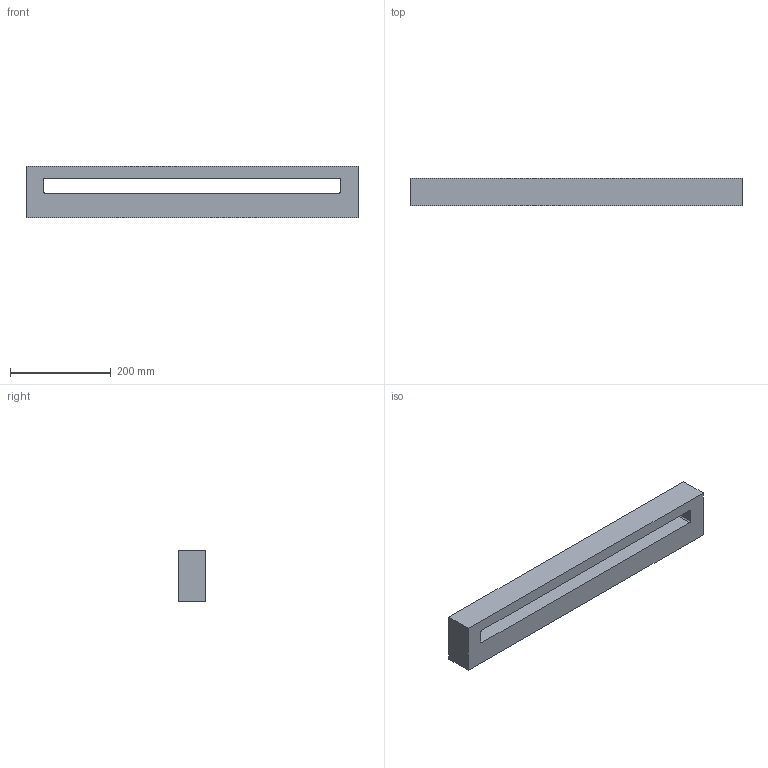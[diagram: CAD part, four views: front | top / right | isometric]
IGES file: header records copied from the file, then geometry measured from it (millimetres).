
Start section: SolidWorks IGES file using analytic representation for surfaces
Global section: file name: C:\Users\Stagiaire\Desktop\Rendu 3D\SUCRE\3075_SUCRE_LED_60\3075_SUCRE_LED_60.IGS; native system: SolidWorks 2014; preprocessor: SolidWorks 2014; author: Stagiaire; date: 140916.094812; units: millimetre
Bounding box: 660 x 55 x 102 mm (x, y, z)
Surface area: 250985.8 mm2 (no closed solid volume)
Topology: 0 solids, 0 shells, 14 faces, 128 edges, 128 vertices
Faces by surface type: bspline 10, revolution 4
